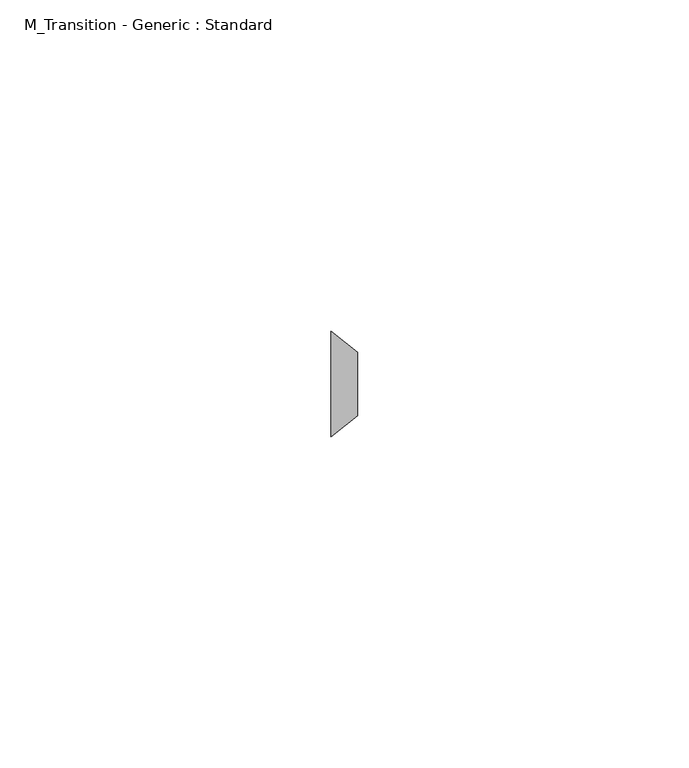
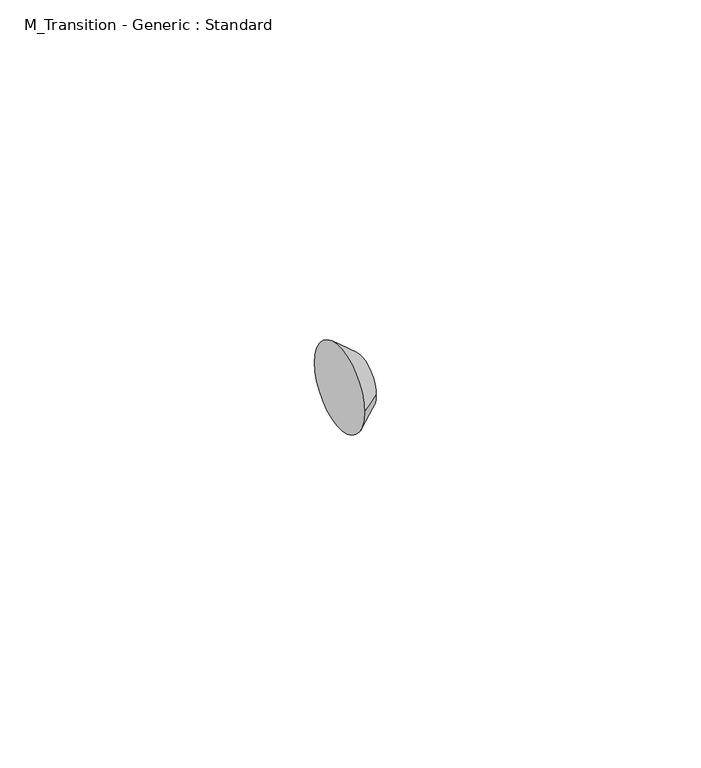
"""IFC4 building model written with IfcOpenShell, lengths in millimetres: pipe fitting geometry, M_Transition - Generic : Standard."""

from ifc_helpers import new_model, si_unit, frame, origin, place, context, project, spatial, polyline, circle_curve, source, transform, mapped, element, save
from ifc_brep_helpers import plane_surface, revolved_surface, advanced_brep


def m_transition_generic_standard_bdcfe2c1(model_context):
    return source(origin(), model_context, "Body", "AdvancedBrep", [
        advanced_brep(
        [(3.96875, -4.7875, 0.0), (3.96875, 4.7875, 0.0), (0.0, -7.9375, 0.0), (0.0, 7.9375, 0.0)],
        [
            (0, 1, circle_curve(frame((3.96875, 0.0, 0.0), z_axis=(1.0, -1.091393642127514e-12, 1.4029942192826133e-12), x_axis=(-1.091325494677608e-12, -1.0, 0.0)), 4.7875)),
            (1, 0, circle_curve(frame((3.96875, 0.0, 0.0), z_axis=(1.0, -1.091393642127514e-12, 1.4029942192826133e-12), x_axis=(1.0913254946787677e-12, 1.0, 0.0)), 4.7875)),
            (2, 3, circle_curve(frame((0.0, 0.0, 0.0), z_axis=(-1.0, 1.091393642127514e-12, -1.4029942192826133e-12), x_axis=(1.0913254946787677e-12, 1.0, 0.0)), 7.9375)),
            (3, 2, circle_curve(frame((0.0, 0.0, 0.0), z_axis=(-1.0, 1.091393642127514e-12, -1.4029942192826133e-12), x_axis=(-1.091325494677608e-12, -1.0, 0.0)), 7.9375)),
            (3, 1),
            (0, 2),
        ],
        [
            plane_surface(frame((3.96875, 0.0, 0.0), z_axis=(1.0, 0.0, 0.0), x_axis=(0.0, 0.0, -1.0))),
            plane_surface(frame((0.0, 0.0, 0.0), z_axis=(-1.0, 0.0, 0.0), x_axis=(0.0, 0.0, -1.0))),
            revolved_surface(polyline([(3.96875, -4.787499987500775, 0.0), (-1.7326584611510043e-11, -7.9375000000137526, 0.0)]), (10.00062, 0.0, 0.0), (-1.0, 1.091393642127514e-12, -1.4029942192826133e-12)),
            revolved_surface(polyline([(3.9687500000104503, 4.787499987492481, 0.0), (0.0, 7.9375, 0.0)]), (10.00062, 0.0, 0.0), (-1.0, 1.091393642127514e-12, -1.4029942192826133e-12)),
        ],
        [
            (0, [[1, 2]]),
            (1, [[3, 4]]),
            (2, [[-4, 5, -1, 6]]),
            (3, [[-3, -6, -2, -5]]),
        ],
    ),
    ])


if __name__ == "__main__":
    model = new_model("IFC4")
    model_context = context("Model", 3, world=origin())
    ifc_project = project(units=[si_unit("LENGTHUNIT", "METRE", prefix="MILLI")], contexts=[model_context])
    site = spatial("IfcSite", under=ifc_project)
    building = spatial("IfcBuilding", under=site)
    placement = place(None, origin())
    m_transition_generic_standard_shape = m_transition_generic_standard_bdcfe2c1(model_context)
    element("IfcPipeFitting", 1, ObjectType="M_Transition - Generic : Standard", at=placement, inside=building, context=model_context, shape_type="MappedRepresentation", body=[
        mapped(m_transition_generic_standard_shape, transform((0.0, 0.0, 0.0), x_axis=(1.0, 0.0, 0.0), y_axis=(0.0, 1.0, 0.0), z_axis=(0.0, 0.0, 1.0))),
    ])
    save(model, "model.ifc")
